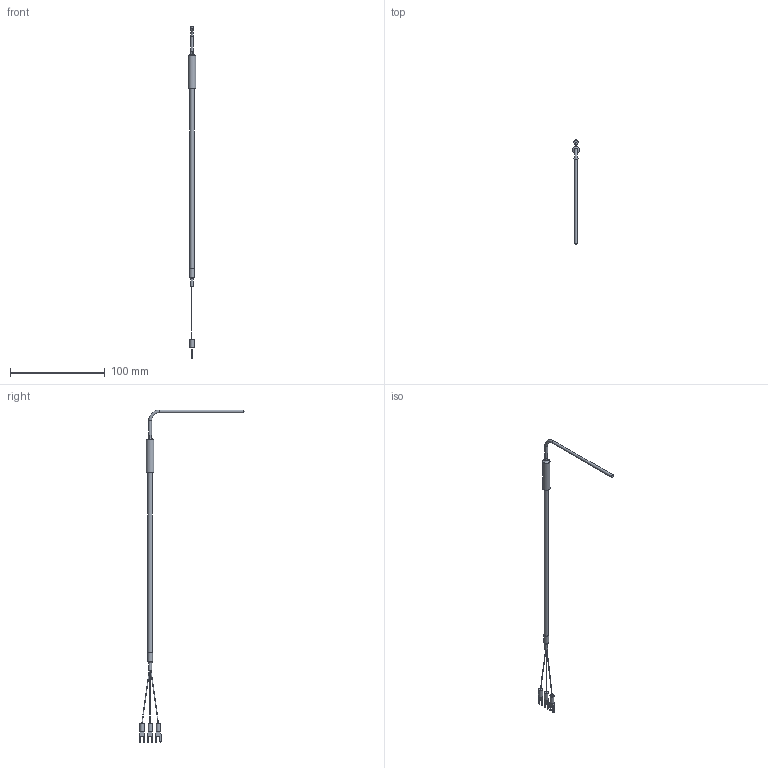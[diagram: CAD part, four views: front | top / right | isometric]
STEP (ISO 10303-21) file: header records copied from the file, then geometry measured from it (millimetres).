
FILE_DESCRIPTION (( 'STEP AP203' ), '1' );
FILE_NAME ('YIR111-2(0).STEP', '2024-10-29T07:54:39', ( '' ), ( '' ), 'SwSTEP 2.0', 'SolidWorks 2021', '' );
FILE_SCHEMA (( 'CONFIG_CONTROL_DESIGN' ));
Length unit declared in the file: millimetre
Products named in the file (1): YIR111-2(0)
Bounding box: 8 x 111.48 x 351.22 mm (x, y, z)
Volume: 6939.3 mm3; surface area: 6341 mm2
Topology: 1 solids, 1 shells, 91 faces, 222 edges, 145 vertices
Faces by surface type: plane 47, cylinder 31, bspline 8, cone 3, torus 2
Full cylindrical faces by diameter (mm): 0.5 x1, 3 x2, 3.16 x1, 4.5 x3, 4.8 x1, 5 x1, 8 x1
Entity records: 2817 total; most frequent: CARTESIAN_POINT 680, DIRECTION 424, ORIENTED_EDGE 400, EDGE_CURVE 200, AXIS2_PLACEMENT_3D 152, VERTEX_POINT 140, LINE 120, VECTOR 120
